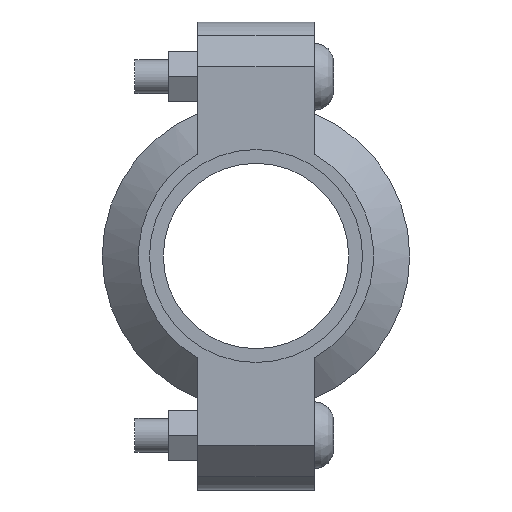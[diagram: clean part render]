
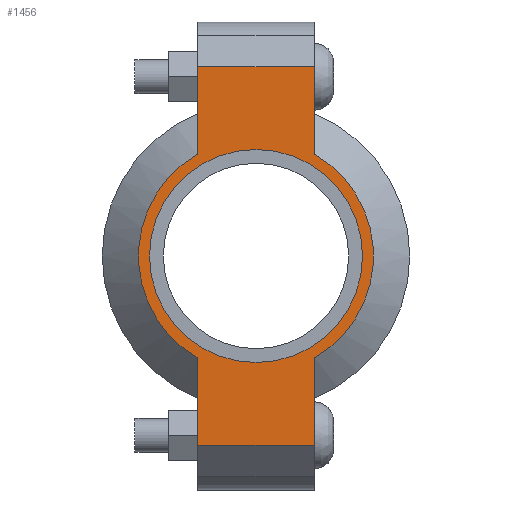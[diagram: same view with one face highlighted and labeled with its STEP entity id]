
A CAD part, left-side view. The second image highlights one B-rep face of the part: STEP entity #1456.
In plain terms, the highlighted planar face has unit normal (-1, 0, 0) as drawn and (0, 0, 1) by its records, which use the part's own axes.
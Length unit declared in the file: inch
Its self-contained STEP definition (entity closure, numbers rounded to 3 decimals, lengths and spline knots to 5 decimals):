
#136=LINE('',#2525,#227);
#144=LINE('',#2561,#235);
#151=LINE('',#2582,#242);
#160=LINE('',#2614,#251);
#161=LINE('',#2618,#252);
#162=LINE('',#2620,#253);
#227=VECTOR('',#2047,0.3937);
#235=VECTOR('',#2063,0.3937);
#242=VECTOR('',#2082,0.3937);
#251=VECTOR('',#2107,0.3937);
#252=VECTOR('',#2112,0.3937);
#253=VECTOR('',#2113,0.3937);
#305=FACE_BOUND('',#465,.T.);
#369=FACE_OUTER_BOUND('',#464,.T.);
#464=EDGE_LOOP('',(#1191,#1192,#1193,#1194,#1195,#1196,#1197,#1198));
#465=EDGE_LOOP('',(#1199));
#562=CIRCLE('',#1717,1.31);
#563=CIRCLE('',#1718,1.31);
#564=CIRCLE('',#1719,1.1875);
#667=VERTEX_POINT('',#2522);
#668=VERTEX_POINT('',#2524);
#679=VERTEX_POINT('',#2556);
#680=VERTEX_POINT('',#2560);
#687=VERTEX_POINT('',#2579);
#688=VERTEX_POINT('',#2581);
#698=VERTEX_POINT('',#2617);
#699=VERTEX_POINT('',#2619);
#700=VERTEX_POINT('',#2622);
#831=EDGE_CURVE('',#668,#667,#136,.T.);
#845=EDGE_CURVE('',#680,#679,#144,.T.);
#855=EDGE_CURVE('',#688,#687,#151,.T.);
#870=EDGE_CURVE('',#680,#667,#160,.T.);
#871=EDGE_CURVE('',#679,#688,#562,.T.);
#872=EDGE_CURVE('',#698,#687,#161,.T.);
#873=EDGE_CURVE('',#698,#699,#162,.T.);
#874=EDGE_CURVE('',#699,#668,#563,.T.);
#875=EDGE_CURVE('',#700,#700,#564,.T.);
#1191=ORIENTED_EDGE('',*,*,#870,.F.);
#1192=ORIENTED_EDGE('',*,*,#845,.T.);
#1193=ORIENTED_EDGE('',*,*,#871,.T.);
#1194=ORIENTED_EDGE('',*,*,#855,.T.);
#1195=ORIENTED_EDGE('',*,*,#872,.F.);
#1196=ORIENTED_EDGE('',*,*,#873,.T.);
#1197=ORIENTED_EDGE('',*,*,#874,.T.);
#1198=ORIENTED_EDGE('',*,*,#831,.T.);
#1199=ORIENTED_EDGE('',*,*,#875,.T.);
#1310=PLANE('',#1716);
#1456=ADVANCED_FACE('',(#369,#305),#1310,.T.);
#1716=AXIS2_PLACEMENT_3D('',#2615,#2108,#2109);
#1717=AXIS2_PLACEMENT_3D('',#2616,#2110,#2111);
#1718=AXIS2_PLACEMENT_3D('',#2621,#2114,#2115);
#1719=AXIS2_PLACEMENT_3D('',#2623,#2116,#2117);
#2047=DIRECTION('',(1.,0.,0.));
#2063=DIRECTION('',(-1.,0.,0.));
#2082=DIRECTION('',(-1.,0.,0.));
#2107=DIRECTION('',(0.,-1.,0.));
#2108=DIRECTION('center_axis',(0.,0.,1.));
#2109=DIRECTION('ref_axis',(-1.,0.,0.));
#2110=DIRECTION('center_axis',(0.,0.,1.));
#2111=DIRECTION('ref_axis',(1.,0.,0.));
#2112=DIRECTION('',(0.,1.,0.));
#2113=DIRECTION('',(1.,0.,0.));
#2114=DIRECTION('center_axis',(0.,0.,1.));
#2115=DIRECTION('ref_axis',(1.,0.,0.));
#2116=DIRECTION('center_axis',(0.,0.,-1.));
#2117=DIRECTION('ref_axis',(1.,0.,0.));
#2522=CARTESIAN_POINT('',(2.11,-0.65,0.94));
#2524=CARTESIAN_POINT('',(1.13737,-0.65,0.94));
#2525=CARTESIAN_POINT('',(2.61,-0.65,0.94));
#2556=CARTESIAN_POINT('',(1.13737,0.65,0.94));
#2560=CARTESIAN_POINT('',(2.11,0.65,0.94));
#2561=CARTESIAN_POINT('',(-2.61,0.65,0.94));
#2579=CARTESIAN_POINT('',(-2.11,0.65,0.94));
#2581=CARTESIAN_POINT('',(-1.13737,0.65,0.94));
#2582=CARTESIAN_POINT('',(-2.61,0.65,0.94));
#2614=CARTESIAN_POINT('',(2.11,-0.325,0.94));
#2615=CARTESIAN_POINT('Origin',(0.,0.,
0.94));
#2616=CARTESIAN_POINT('Origin',(0.,0.,0.94));
#2617=CARTESIAN_POINT('',(-2.11,-0.65,0.94));
#2618=CARTESIAN_POINT('',(-2.11,0.325,0.94));
#2619=CARTESIAN_POINT('',(-1.13737,-0.65,0.94));
#2620=CARTESIAN_POINT('',(2.61,-0.65,0.94));
#2621=CARTESIAN_POINT('Origin',(0.,0.,0.94));
#2622=CARTESIAN_POINT('',(-1.1875,0.,0.94));
#2623=CARTESIAN_POINT('Origin',(0.,0.,0.94));
